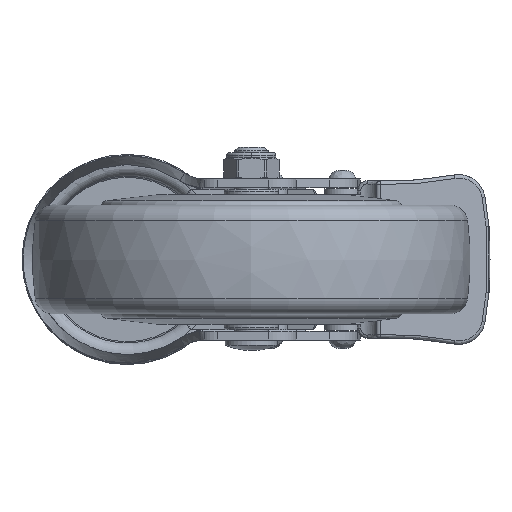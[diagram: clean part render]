
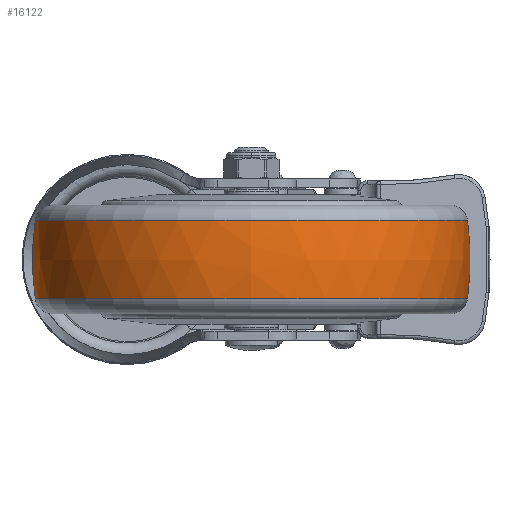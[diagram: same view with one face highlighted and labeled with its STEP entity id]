
A CAD part, front view. The second image highlights one B-rep face of the part: STEP entity #16122.
In plain terms, the highlighted free-form (B-spline) face has degree [3, 3] with [7, 4] control points.
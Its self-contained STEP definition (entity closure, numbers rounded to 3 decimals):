
#15573=CARTESIAN_POINT('',(11.2,0.,0.));
#15574=DIRECTION('',(-1.,0.,0.));
#15575=DIRECTION('',(0.,1.,0.));
#15576=AXIS2_PLACEMENT_3D('',#15573,#15574,#15575);
#15578=CARTESIAN_POINT('',(0.,-17.482,0.));
#15579=DIRECTION('',(0.,0.,1.));
#15580=DIRECTION('',(0.14,0.99,0.));
#15581=AXIS2_PLACEMENT_3D('',#15578,#15579,#15580);
#15588=CARTESIAN_POINT('',(0.,17.482,0.));
#15589=DIRECTION('',(0.,0.,-1.));
#15590=DIRECTION('',(0.14,-0.99,0.));
#15591=AXIS2_PLACEMENT_3D('',#15588,#15589,#15590);
#15800=CARTESIAN_POINT('',(-11.2,0.,0.));
#15801=DIRECTION('',(-1.,0.,0.));
#15802=DIRECTION('',(0.,1.,0.));
#15803=AXIS2_PLACEMENT_3D('',#15800,#15801,#15802);
#15987=CARTESIAN_POINT('',(11.2,61.73,0.));
#15988=CARTESIAN_POINT('',(-11.2,61.73,0.));
#15989=VERTEX_POINT('',#15987);
#15990=VERTEX_POINT('',#15988);
#16035=CARTESIAN_POINT('',(11.2,-61.73,
0.));
#16036=CARTESIAN_POINT('',(-11.2,-61.73,
0.));
#16037=VERTEX_POINT('',#16035);
#16038=VERTEX_POINT('',#16036);
#16083=CARTESIAN_POINT('',(11.645,61.544,3.872));
#16084=CARTESIAN_POINT('',(3.909,62.68,3.943));
#16085=CARTESIAN_POINT('',(-3.909,62.68,
3.943));
#16086=CARTESIAN_POINT('',(-11.645,61.544,
3.872));
#16087=CARTESIAN_POINT('',(11.645,63.927,
-34.002));
#16088=CARTESIAN_POINT('',(3.909,65.107,
-34.63));
#16089=CARTESIAN_POINT('',(-3.909,65.107,
-34.63));
#16090=CARTESIAN_POINT('',(-11.645,63.927,
-34.002));
#16091=CARTESIAN_POINT('',(11.645,37.949,
-61.666));
#16092=CARTESIAN_POINT('',(3.909,38.649,
-62.804));
#16093=CARTESIAN_POINT('',(-3.909,38.649,
-62.804));
#16094=CARTESIAN_POINT('',(-11.645,37.949,
-61.666));
#16095=CARTESIAN_POINT('',(11.645,0.,-61.666));
#16096=CARTESIAN_POINT('',(3.909,0.,-62.804));
#16097=CARTESIAN_POINT('',(-3.909,0.,-62.804));
#16098=CARTESIAN_POINT('',(-11.645,0.,
-61.666));
#16099=CARTESIAN_POINT('',(11.645,-37.949,
-61.666));
#16100=CARTESIAN_POINT('',(3.909,-38.649,
-62.804));
#16101=CARTESIAN_POINT('',(-3.909,-38.649,
-62.804));
#16102=CARTESIAN_POINT('',(-11.645,-37.949,
-61.666));
#16103=CARTESIAN_POINT('',(11.645,-63.927,
-34.002));
#16104=CARTESIAN_POINT('',(3.909,-65.107,
-34.63));
#16105=CARTESIAN_POINT('',(-3.909,-65.107,
-34.63));
#16106=CARTESIAN_POINT('',(-11.645,-63.927,
-34.002));
#16107=CARTESIAN_POINT('',(11.645,-61.544,
3.872));
#16108=CARTESIAN_POINT('',(3.909,-62.68,
3.943));
#16109=CARTESIAN_POINT('',(-3.909,-62.68,
3.943));
#16110=CARTESIAN_POINT('',(-11.645,-61.544,
3.872));
#16111=(BOUNDED_SURFACE()B_SPLINE_SURFACE(3,3,((#16083,#16084,#16085,#16086),(
#16087,#16088,#16089,#16090),(#16091,#16092,#16093,#16094),(#16095,#16096,
#16097,#16098),(#16099,#16100,#16101,#16102),(#16103,#16104,#16105,#16106),(
#16107,#16108,#16109,#16110)),.UNSPECIFIED.,.F.,.F.,.F.)B_SPLINE_SURFACE_WITH_KNOTS((4,3,4),(4,4),(0.,1.,2.),(0.,1.),.UNSPECIFIED.)GEOMETRIC_REPRESENTATION_ITEM()RATIONAL_B_SPLINE_SURFACE(((1.194,1.185,
1.185,1.194),(0.943,0.936,
0.936,0.943),(0.943,0.936,
0.936,0.943),(1.194,1.185,
1.185,1.194),(0.943,0.936,
0.936,0.943),(0.943,0.936,
0.936,0.943),(1.194,1.185,
1.185,1.194)))REPRESENTATION_ITEM('')SURFACE());
#16113=ORIENTED_EDGE('',*,*,#16112,.T.);
#16115=ORIENTED_EDGE('',*,*,#16114,.T.);
#16117=ORIENTED_EDGE('',*,*,#16116,.F.);
#16119=ORIENTED_EDGE('',*,*,#16118,.F.);
#16120=EDGE_LOOP('',(#16113,#16115,#16117,#16119));
#16121=FACE_OUTER_BOUND('',#16120,.F.);
#15577=CIRCLE('',#15576,61.73);
#15582=CIRCLE('',#15581,80.);
#15592=CIRCLE('',#15591,80.);
#15804=CIRCLE('',#15803,61.73);
#16112=EDGE_CURVE('',#15989,#15990,#15582,.T.);
#16114=EDGE_CURVE('',#15990,#16038,#15804,.T.);
#16116=EDGE_CURVE('',#16037,#16038,#15592,.T.);
#16118=EDGE_CURVE('',#15989,#16037,#15577,.T.);
#16122=ADVANCED_FACE('',(#16121),#16111,.T.);
